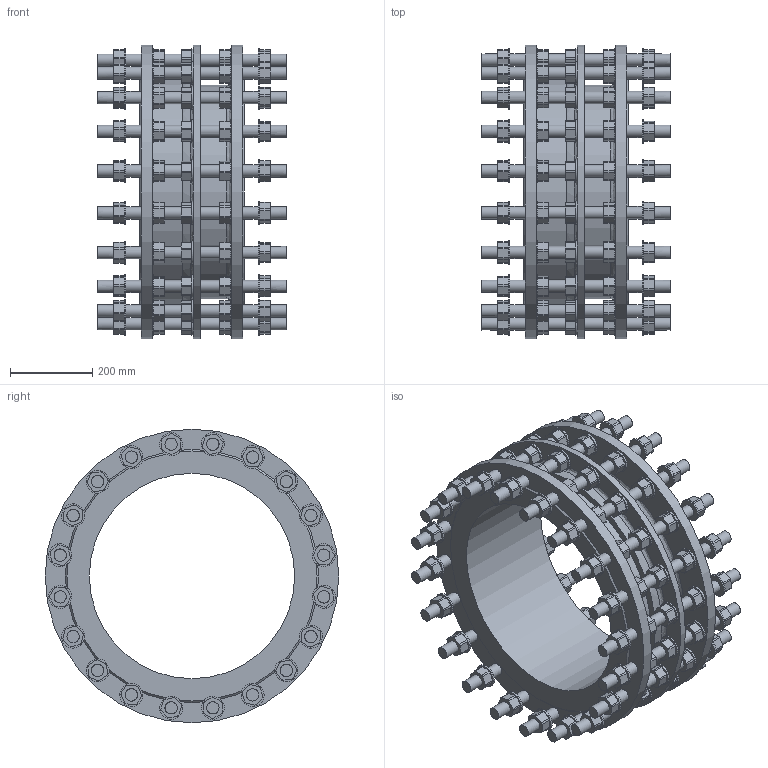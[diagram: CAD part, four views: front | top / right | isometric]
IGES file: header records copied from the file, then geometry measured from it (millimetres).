
Start section: SolidWorks IGES file using analytic representation for surfaces
Global section: file name: \\avksan2\techshare\PBM outline export from Enovia\O_265_910_DN500_1XXXXX00_L=255_REV01.igs; native system: SolidWorks 2022; preprocessor: SolidWorks 2022; author: pbm; date: 241011.124101; units: millimetre
Bounding box: 460 x 715 x 715 mm (x, y, z)
Surface area: 2956234.6 mm2 (no closed solid volume)
Topology: 0 solids, 0 shells, 1780 faces, 9051 edges, 8841 vertices
Faces by surface type: bspline 928, revolution 852
